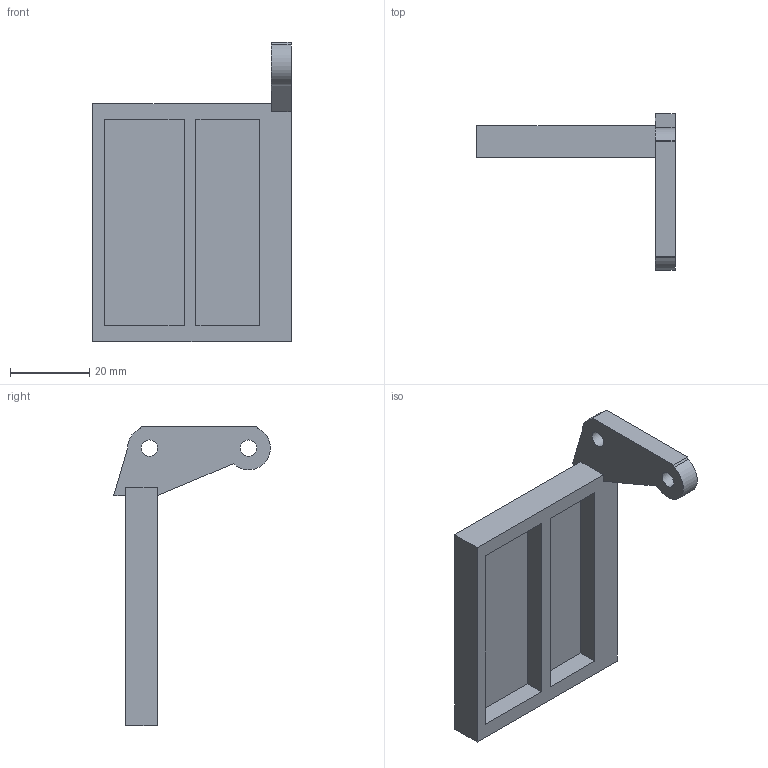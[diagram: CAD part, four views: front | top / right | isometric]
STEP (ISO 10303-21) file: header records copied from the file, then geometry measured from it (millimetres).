
FILE_DESCRIPTION(('Open CASCADE Model'),'2;1');
FILE_NAME('Open CASCADE Shape Model','2026-10-15T13:05:48',('Author'),( 'Open CASCADE'),'Open CASCADE STEP processor 7.9','Open CASCADE 7.9' ,'Unknown');
FILE_SCHEMA(('AUTOMOTIVE_DESIGN { 1 0 10303 214 1 1 1 1 }'));
Length unit declared in the file: millimetre
Products named in the file (1): Open CASCADE STEP translator 7.9 10
Bounding box: 50 x 39.48 x 75.5 mm (x, y, z)
Volume: 16889.4 mm3; surface area: 10587.9 mm2
Topology: 1 solids, 1 shells, 27 faces, 69 edges, 46 vertices
Faces by surface type: plane 23, cylinder 4
Full cylindrical faces by diameter (mm): 4.1 x2
Entity records: 1711 total; most frequent: CARTESIAN_POINT 341, DIRECTION 236, LINE 161, VECTOR 161, ORIENTED_EDGE 138, PCURVE 138, DEFINITIONAL_REPRESENTATION 138, EDGE_CURVE 69
